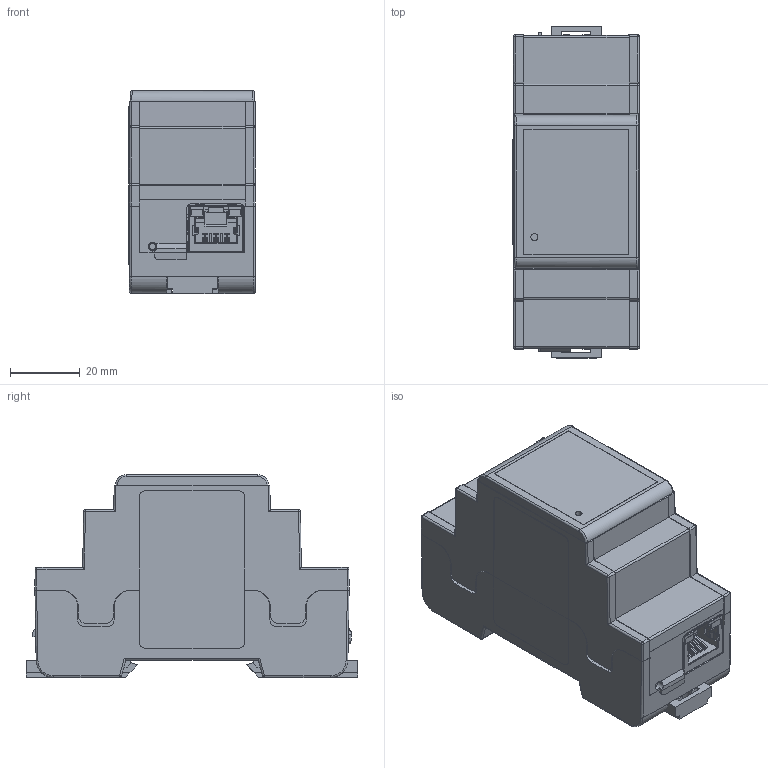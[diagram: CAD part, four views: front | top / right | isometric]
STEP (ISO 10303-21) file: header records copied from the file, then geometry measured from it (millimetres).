
FILE_DESCRIPTION (( 'STEP AP214' ), '1' );
FILE_NAME ('20260601_piSmart-Gateway-OPC-UA_911131320.STEP', '2026-06-01T10:44:53', ( '' ), ( '' ), 'SwSTEP 2.0', 'SolidWorks 2026', '' );
FILE_SCHEMA (( 'AUTOMOTIVE_DESIGN' ));
Length unit declared in the file: millimetre
Products named in the file (6): 449-320-40_20250606_OPC-UA; 20260601_piSmart-Gateway-OPC-UA_911131320; 449-320-40_nupsi; zebra_label_Produktaufkleber_45x30; 449-320-40_449-320-40_Boden; 20260108_piSmart-Gateway-OPC-UA_rev01.03_20260601_Simpel
Assembly tree (5 placements, depth 2):
  20260601_piSmart-Gateway-OPC-UA_911131320
    449-320-40_449-320-40_Boden
    449-320-40_20250606_OPC-UA
    zebra_label_Produktaufkleber_45x30
    20260108_piSmart-Gateway-OPC-UA_rev01.03_20260601_Simpel
    449-320-40_nupsi
Bounding box: 36.2 x 95 x 58.1 mm (x, y, z)
Volume: 40338.8 mm3; surface area: 60627.6 mm2
Topology: 13 solids, 13 shells, 3396 faces, 9289 edges, 5934 vertices
Faces by surface type: plane 2191, cylinder 852, bspline 164, cone 120, torus 53, sphere 16
Entity records: 121811 total; most frequent: CARTESIAN_POINT 38430, ORIENTED_EDGE 18446, DIRECTION 15773, EDGE_CURVE 9223, VECTOR 6621, LINE 6621, VERTEX_POINT 5934, AXIS2_PLACEMENT_3D 4576
